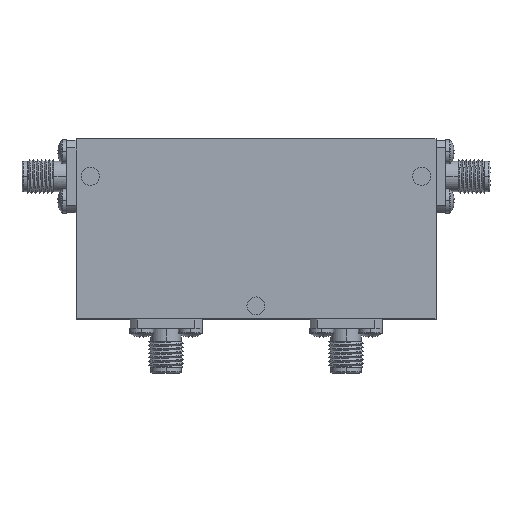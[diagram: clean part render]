
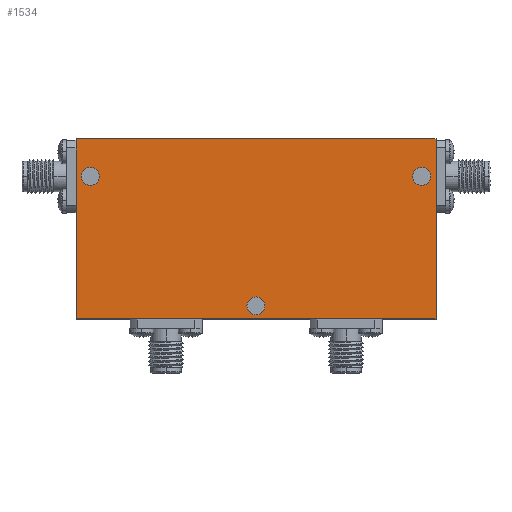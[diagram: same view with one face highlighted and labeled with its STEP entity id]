
A CAD part, top view. The second image highlights one B-rep face of the part: STEP entity #1534.
In plain terms, the highlighted planar face has unit normal (0, 0, 1).
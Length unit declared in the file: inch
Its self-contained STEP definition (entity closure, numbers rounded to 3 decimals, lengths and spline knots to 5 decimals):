
#44 = ORIENTED_EDGE ( 'NONE', *, *, #3668, .F. ) ;
#71 = LINE ( 'NONE', #368, #3624 ) ;
#117 = CARTESIAN_POINT ( 'NONE',  ( 0.0625, -0.535, 0.365 ) ) ;
#148 = CARTESIAN_POINT ( 'NONE',  ( 0., 0., 0.365 ) ) ;
#158 = CARTESIAN_POINT ( 'NONE',  ( 1.15, 0.365, 0.365 ) ) ;
#163 = LINE ( 'NONE', #434, #636 ) ;
#368 = CARTESIAN_POINT ( 'NONE',  ( -1.25, 0.625, 0.365 ) ) ;
#434 = CARTESIAN_POINT ( 'NONE',  ( -1.25, -0.625, 0.365 ) ) ;
#448 = DIRECTION ( 'NONE',  ( 1., 0., 0. ) ) ;
#474 = CARTESIAN_POINT ( 'NONE',  ( -1.2125, 0.365, 0.365 ) ) ;
#612 = FACE_BOUND ( 'NONE', #3232, .T. ) ;
#636 = VECTOR ( 'NONE', #3470, 39.37008 ) ;
#641 = CIRCLE ( 'NONE', #2156, 0.0625 ) ;
#644 = DIRECTION ( 'NONE',  ( 0., 0., 1. ) ) ;
#709 = CARTESIAN_POINT ( 'NONE',  ( -0.0625, -0.535, 0.365 ) ) ;
#720 = DIRECTION ( 'NONE',  ( 0., 0., 1. ) ) ;
#751 = EDGE_CURVE ( 'NONE', #3285, #1341, #3401, .T. ) ;
#763 = CARTESIAN_POINT ( 'NONE',  ( -1.25, 0.625, 0.365 ) ) ;
#784 = PLANE ( 'NONE',  #3782 ) ;
#787 = DIRECTION ( 'NONE',  ( 0., 0., 1. ) ) ;
#815 = CARTESIAN_POINT ( 'NONE',  ( 1.25, -0.625, 0.365 ) ) ;
#839 = VERTEX_POINT ( 'NONE', #474 ) ;
#848 = EDGE_CURVE ( 'NONE', #1035, #839, #641, .T. ) ;
#861 = VECTOR ( 'NONE', #2646, 39.37008 ) ;
#921 = EDGE_CURVE ( 'NONE', #3318, #3633, #3801, .T. ) ;
#936 = FACE_OUTER_BOUND ( 'NONE', #3415, .T. ) ;
#946 = DIRECTION ( 'NONE',  ( 1., 0., 0. ) ) ;
#998 = CARTESIAN_POINT ( 'NONE',  ( 1.25, 0.625, 0.365 ) ) ;
#1011 = CARTESIAN_POINT ( 'NONE',  ( 0., -0.535, 0.365 ) ) ;
#1035 = VERTEX_POINT ( 'NONE', #2962 ) ;
#1054 = DIRECTION ( 'NONE',  ( 0., 0., 1. ) ) ;
#1071 = EDGE_LOOP ( 'NONE', ( #1257, #44 ) ) ;
#1121 = ORIENTED_EDGE ( 'NONE', *, *, #3481, .T. ) ;
#1194 = DIRECTION ( 'NONE',  ( 1., 0., 0. ) ) ;
#1198 = AXIS2_PLACEMENT_3D ( 'NONE', #2441, #644, #946 ) ;
#1230 = DIRECTION ( 'NONE',  ( -1., 0., 0. ) ) ;
#1257 = ORIENTED_EDGE ( 'NONE', *, *, #848, .F. ) ;
#1341 = VERTEX_POINT ( 'NONE', #117 ) ;
#1401 = CARTESIAN_POINT ( 'NONE',  ( 1.0875, 0.365, 0.365 ) ) ;
#1534 = ADVANCED_FACE ( 'NONE', ( #612, #2636, #3688, #936 ), #784, .T. ) ;
#1560 = CIRCLE ( 'NONE', #1691, 0.0625 ) ;
#1575 = ORIENTED_EDGE ( 'NONE', *, *, #2372, .F. ) ;
#1585 = ORIENTED_EDGE ( 'NONE', *, *, #2499, .T. ) ;
#1669 = CARTESIAN_POINT ( 'NONE',  ( -1.15, 0.365, 0.365 ) ) ;
#1691 = AXIS2_PLACEMENT_3D ( 'NONE', #2603, #787, #2304 ) ;
#1710 = DIRECTION ( 'NONE',  ( 0., 0., 1. ) ) ;
#1842 = AXIS2_PLACEMENT_3D ( 'NONE', #1011, #720, #2827 ) ;
#1971 = DIRECTION ( 'NONE',  ( 0., 0., 1. ) ) ;
#1979 = CARTESIAN_POINT ( 'NONE',  ( 1.15, 0.365, 0.365 ) ) ;
#2049 = EDGE_CURVE ( 'NONE', #3633, #3318, #3707, .T. ) ;
#2091 = ORIENTED_EDGE ( 'NONE', *, *, #3005, .T. ) ;
#2156 = AXIS2_PLACEMENT_3D ( 'NONE', #1669, #1054, #448 ) ;
#2243 = DIRECTION ( 'NONE',  ( 0., 0., 1. ) ) ;
#2258 = CARTESIAN_POINT ( 'NONE',  ( 1.25, 0.625, 0.365 ) ) ;
#2285 = ORIENTED_EDGE ( 'NONE', *, *, #2049, .F. ) ;
#2304 = DIRECTION ( 'NONE',  ( 1., 0., 0. ) ) ;
#2326 = AXIS2_PLACEMENT_3D ( 'NONE', #1979, #1710, #1194 ) ;
#2333 = CARTESIAN_POINT ( 'NONE',  ( -1.25, -0.625, 0.365 ) ) ;
#2372 = EDGE_CURVE ( 'NONE', #1341, #3285, #2520, .T. ) ;
#2441 = CARTESIAN_POINT ( 'NONE',  ( 0., -0.535, 0.365 ) ) ;
#2457 = CARTESIAN_POINT ( 'NONE',  ( 1.2125, 0.365, 0.365 ) ) ;
#2499 = EDGE_CURVE ( 'NONE', #2853, #2671, #3673, .T. ) ;
#2520 = CIRCLE ( 'NONE', #1198, 0.0625 ) ;
#2526 = EDGE_LOOP ( 'NONE', ( #1575, #3387 ) ) ;
#2588 = ORIENTED_EDGE ( 'NONE', *, *, #921, .F. ) ;
#2603 = CARTESIAN_POINT ( 'NONE',  ( -1.15, 0.365, 0.365 ) ) ;
#2636 = FACE_BOUND ( 'NONE', #2526, .T. ) ;
#2646 = DIRECTION ( 'NONE',  ( 0., -1., 0. ) ) ;
#2671 = VERTEX_POINT ( 'NONE', #2258 ) ;
#2763 = ORIENTED_EDGE ( 'NONE', *, *, #3649, .T. ) ;
#2800 = VECTOR ( 'NONE', #3111, 39.37008 ) ;
#2827 = DIRECTION ( 'NONE',  ( 1., 0., 0. ) ) ;
#2853 = VERTEX_POINT ( 'NONE', #815 ) ;
#2860 = DIRECTION ( 'NONE',  ( 1., 0., 0. ) ) ;
#2897 = VERTEX_POINT ( 'NONE', #2333 ) ;
#2962 = CARTESIAN_POINT ( 'NONE',  ( -1.0875, 0.365, 0.365 ) ) ;
#3005 = EDGE_CURVE ( 'NONE', #2671, #3500, #71, .T. ) ;
#3069 = LINE ( 'NONE', #3213, #861 ) ;
#3111 = DIRECTION ( 'NONE',  ( 0., 1., 0. ) ) ;
#3213 = CARTESIAN_POINT ( 'NONE',  ( -1.25, 0.625, 0.365 ) ) ;
#3232 = EDGE_LOOP ( 'NONE', ( #2588, #2285 ) ) ;
#3285 = VERTEX_POINT ( 'NONE', #709 ) ;
#3318 = VERTEX_POINT ( 'NONE', #2457 ) ;
#3387 = ORIENTED_EDGE ( 'NONE', *, *, #751, .F. ) ;
#3401 = CIRCLE ( 'NONE', #1842, 0.0625 ) ;
#3415 = EDGE_LOOP ( 'NONE', ( #1585, #2091, #2763, #1121 ) ) ;
#3438 = AXIS2_PLACEMENT_3D ( 'NONE', #158, #2243, #2860 ) ;
#3470 = DIRECTION ( 'NONE',  ( 1., 0., 0. ) ) ;
#3478 = DIRECTION ( 'NONE',  ( 1., 0., 0. ) ) ;
#3481 = EDGE_CURVE ( 'NONE', #2897, #2853, #163, .T. ) ;
#3500 = VERTEX_POINT ( 'NONE', #763 ) ;
#3624 = VECTOR ( 'NONE', #1230, 39.37008 ) ;
#3633 = VERTEX_POINT ( 'NONE', #1401 ) ;
#3649 = EDGE_CURVE ( 'NONE', #3500, #2897, #3069, .T. ) ;
#3668 = EDGE_CURVE ( 'NONE', #839, #1035, #1560, .T. ) ;
#3673 = LINE ( 'NONE', #998, #2800 ) ;
#3688 = FACE_BOUND ( 'NONE', #1071, .T. ) ;
#3707 = CIRCLE ( 'NONE', #2326, 0.0625 ) ;
#3782 = AXIS2_PLACEMENT_3D ( 'NONE', #148, #1971, #3478 ) ;
#3801 = CIRCLE ( 'NONE', #3438, 0.0625 ) ;
